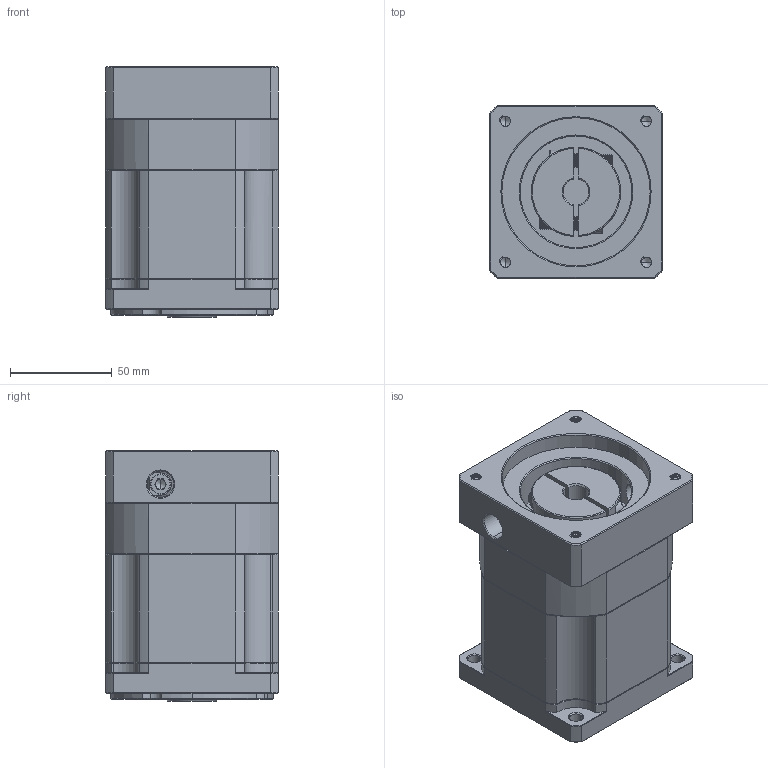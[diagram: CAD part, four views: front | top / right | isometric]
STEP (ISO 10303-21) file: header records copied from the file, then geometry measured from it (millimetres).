
FILE_DESCRIPTION (( 'STEP AP214' ), '1' );
FILE_NAME ('ZB090-K15-L2-P2-12.7-73-69.6X69.6-M6.step', '2023-08-18T12:17:25', ( '' ), ( '' ), 'SwSTEP 2.0', 'SolidWorks 2016', '' );
FILE_SCHEMA (( 'AUTOMOTIVE_DESIGN' ));
Length unit declared in the file: millimetre
Products named in the file (1): ZB090-K15-L2-P2-12.7-73-69.6X69.6-M6
Bounding box: 85 x 85 x 123.5 mm (x, y, z)
Volume: 711780.8 mm3; surface area: 91029.1 mm2
Topology: 4 solids, 5 shells, 2157 faces, 5730 edges, 3657 vertices
Faces by surface type: plane 1055, bspline 390, cylinder 358, cone 329, torus 25
Entity records: 114805 total; most frequent: CARTESIAN_POINT 40619, ORIENTED_EDGE 11420, DIRECTION 8979, EDGE_CURVE 5710, VECTOR 3669, LINE 3669, VERTEX_POINT 3657, AXIS2_PLACEMENT_3D 2655
